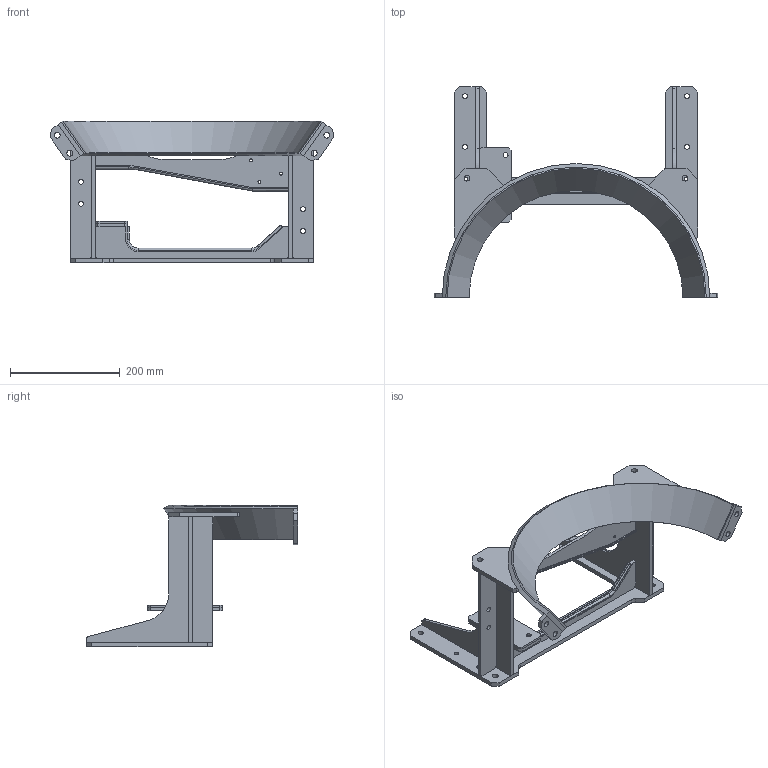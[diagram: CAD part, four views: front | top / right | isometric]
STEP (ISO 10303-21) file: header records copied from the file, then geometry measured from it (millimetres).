
FILE_DESCRIPTION(/* description */ ('BERCEAU PRINCIPAL','CAx-IF Rec.Pracs.---Representation and Presentation of Product Manufacturing Information (PMI)---4.0---2014-10-13'),/* implementation_level */ '2;1');
FILE_NAME(/* name */ 'vv180201-B.stp',/* time_stamp */ '2025-10-14T13:17:06+02:00',/* author */ ('EFR'),/* organization */ (''),/* preprocessor_version */ 'ST-DEVELOPER v20',/* originating_system */ 'Autodesk Inventor 2025',/* authorisation */ '');
FILE_SCHEMA (('AP242_MANAGED_MODEL_BASED_3D_ENGINEERING_MIM_LF { 1 0 10303 442 1 1 4 }'));
Length unit declared in the file: millimetre
Products named in the file (1): VICTOR.V.18.02.01
Bounding box: 517.89 x 385 x 258.65 mm (x, y, z)
Volume: 1666889.1 mm3; surface area: 628018.7 mm2
Topology: 17 solids, 17 shells, 273 faces, 689 edges, 450 vertices
Faces by surface type: plane 162, cylinder 85, torus 18, cone 8
Full cylindrical faces by diameter (mm): 5.5 x4, 9 x12, 10.5 x10
Entity records: 11780 total; most frequent: CARTESIAN_POINT 2908, DIRECTION 1585, ORIENTED_EDGE 1378, STYLED_ITEM 826, EDGE_CURVE 689, POLYLINE 572, AXIS2_PLACEMENT_3D 546, LINE 493
